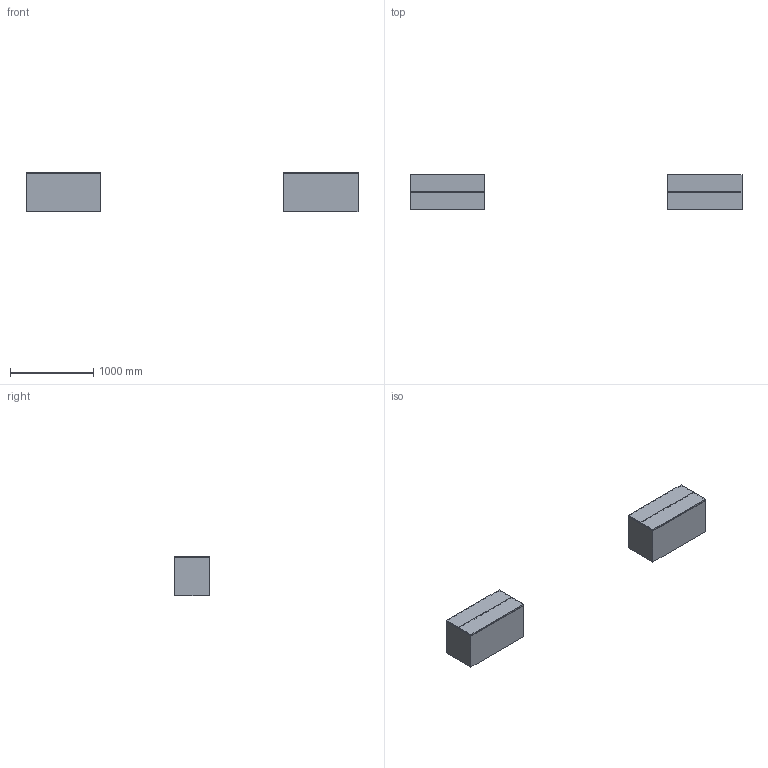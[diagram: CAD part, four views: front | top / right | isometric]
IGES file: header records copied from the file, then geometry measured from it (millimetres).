
Start section: SolidWorks IGES file using NURBS representation for surfaces
Global section: file name: G:\VICCARBE\PRODUCTOS\20-DO IT\04-MODELADOS (PLANOS)\SOLIDWORKS\Composiciones\IGES\VICCARBE_Do_It_Comp02.IGS; native system: SolidWorks 2009; preprocessor: SolidWorks 2009; author: RUBEN; date: 111102.121754; units: millimetre
Bounding box: 4000 x 420 x 479 mm (x, y, z)
Surface area: 7794168 mm2 (no closed solid volume)
Topology: 0 solids, 0 shells, 62 faces, 288 edges, 288 vertices
Faces by surface type: bspline 62
